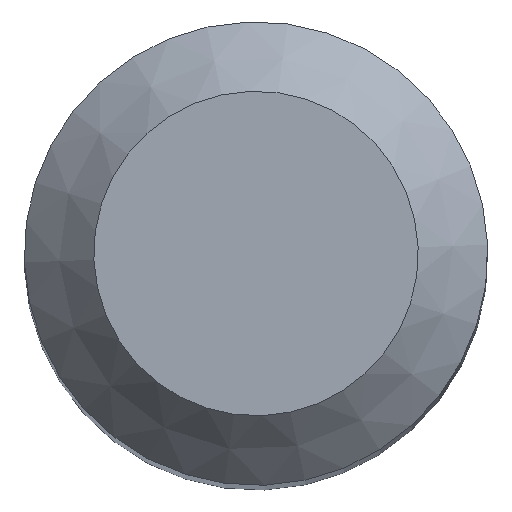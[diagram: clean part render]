
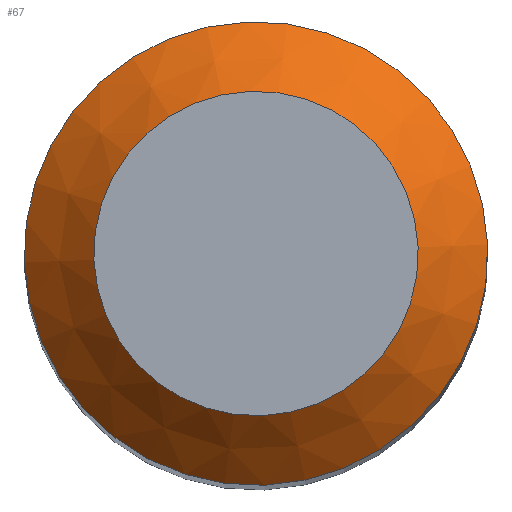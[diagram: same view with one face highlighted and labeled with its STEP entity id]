
A CAD part, top view. The second image highlights one B-rep face of the part: STEP entity #67.
In plain terms, the highlighted conical face has half-angle 45 degrees and reference radius 3 mm.
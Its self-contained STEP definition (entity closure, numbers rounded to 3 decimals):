
#48=CONICAL_SURFACE('',#185,3.,45.);
#59=FACE_BOUND('',#86,.T.);
#60=FACE_BOUND('',#87,.T.);
#67=ADVANCED_FACE('',(#59,#60),#48,.T.);
#86=EDGE_LOOP('',(#100));
#87=EDGE_LOOP('',(#101));
#100=ORIENTED_EDGE('',*,*,#118,.F.);
#101=ORIENTED_EDGE('',*,*,#117,.T.);
#110=VERTEX_POINT('',#255);
#111=VERTEX_POINT('',#258);
#117=EDGE_CURVE('',#110,#110,#124,.T.);
#118=EDGE_CURVE('',#111,#111,#125,.T.);
#124=CIRCLE('',#182,3.);
#125=CIRCLE('',#184,2.1);
#182=AXIS2_PLACEMENT_3D('',#254,#219,#220);
#184=AXIS2_PLACEMENT_3D('',#257,#223,#224);
#185=AXIS2_PLACEMENT_3D('',#259,#225,#226);
#219=DIRECTION('',(0.,0.,1.));
#220=DIRECTION('',(0.952,-0.306,0.));
#223=DIRECTION('',(0.,0.,1.));
#224=DIRECTION('',(0.952,-0.306,0.));
#225=DIRECTION('',(0.,0.,-1.));
#226=DIRECTION('',(-0.952,0.306,0.));
#254=CARTESIAN_POINT('',(0.,0.,-0.9));
#255=CARTESIAN_POINT('',(2.856,-0.917,-0.9));
#257=CARTESIAN_POINT('',(0.,0.,0.));
#258=CARTESIAN_POINT('',(2.,-0.642,0.));
#259=CARTESIAN_POINT('',(0.,0.,-0.9));
